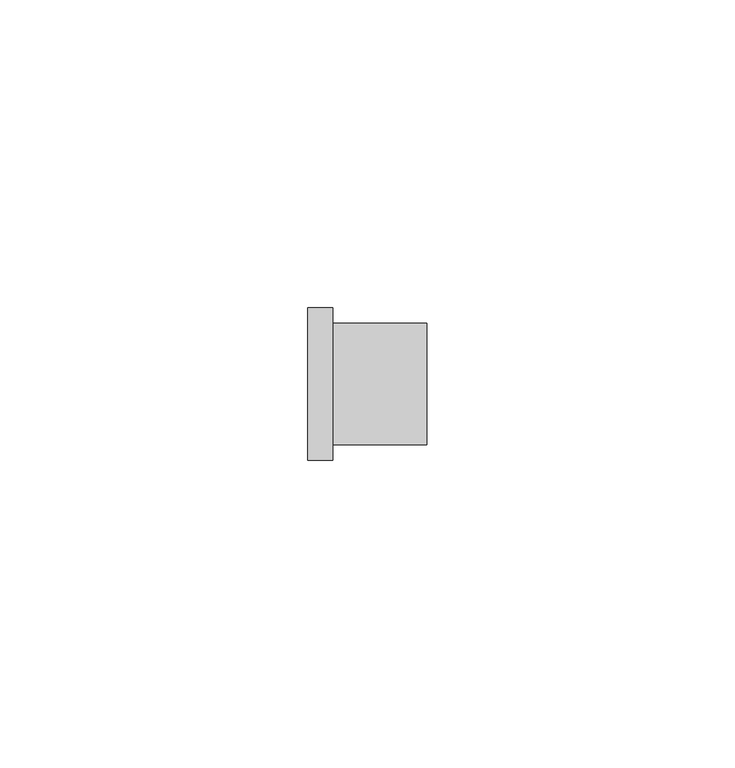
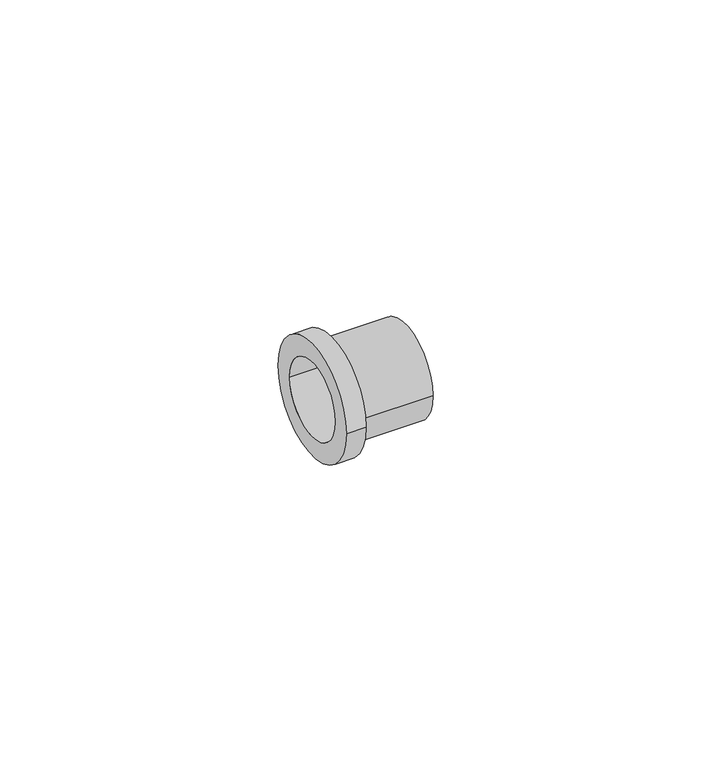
"""IFC4 building model written with IfcOpenShell, lengths in millimetres: pipe fitting geometry, FASTLOC_Sleeve outside : FSL S O DN1."""

from ifc_helpers import new_model, si_unit, frame, origin, place, context, project, spatial, polyline, circle_curve, source, transform, mapped, element, save
from ifc_brep_helpers import plane_surface, cylinder_surface, revolved_surface, advanced_brep


def pipe_fitting_d1512616(model_context):
    return source(origin(), model_context, "Body", "AdvancedBrep", [
        advanced_brep(
        [(4.0, 12.35, 0.0), (4.0, -12.35, 0.0), (0.0, -12.35, 0.0), (0.0, 12.35, 0.0), (19.3, 9.85, 0.0), (19.3, -9.85, 0.0), (4.0, -9.85, 0.0), (4.0, 9.85, 0.0), (0.0, 8.15, 0.0), (0.0, -8.15, 0.0), (19.3, -8.15, 0.0), (19.3, 8.15, 0.0)],
        [
            (0, 1, circle_curve(frame((4.0, 0.0, 0.0), z_axis=(-1.0, 0.0, 0.0), x_axis=(0.0, -1.0, 0.0)), 12.35)),
            (1, 2),
            (2, 3, circle_curve(frame((0.0, 0.0, 0.0), z_axis=(1.0, 0.0, 0.0), x_axis=(0.0, -1.0, 0.0)), 12.35)),
            (3, 0),
            (4, 5, circle_curve(frame((19.3, 0.0, 0.0), z_axis=(-1.0, 0.0, 0.0), x_axis=(0.0, -1.0, 0.0)), 9.85)),
            (5, 6),
            (6, 7, circle_curve(frame((4.0, 0.0, 0.0), z_axis=(1.0, 0.0, 0.0), x_axis=(0.0, -1.0, 0.0)), 9.85)),
            (7, 4),
            (8, 9, circle_curve(frame((0.0, 0.0, 0.0), z_axis=(-1.0, 0.0, 0.0), x_axis=(0.0, -1.0, 0.0)), 8.15)),
            (9, 10),
            (10, 11, circle_curve(frame((19.3, 0.0, 0.0), z_axis=(1.0, 0.0, 0.0), x_axis=(0.0, -1.0, 0.0)), 8.15)),
            (11, 8),
            (1, 0, circle_curve(frame((4.0, 0.0, 0.0), z_axis=(-1.0, 0.0, 0.0), x_axis=(0.0, 1.0, 0.0)), 12.35)),
            (3, 2, circle_curve(frame((0.0, 0.0, 0.0), z_axis=(1.0, 0.0, 0.0), x_axis=(0.0, 1.0, 0.0)), 12.35)),
            (6, 7, circle_curve(frame((4.0, 0.0, 0.0), z_axis=(-1.0, 0.0, 0.0), x_axis=(0.0, 1.0, 0.0)), 9.85)),
            (5, 4, circle_curve(frame((19.3, 0.0, 0.0), z_axis=(-1.0, 0.0, 0.0), x_axis=(0.0, 1.0, 0.0)), 9.85)),
            (10, 11, circle_curve(frame((19.3, 0.0, 0.0), z_axis=(-1.0, 0.0, 0.0), x_axis=(0.0, 1.0, 0.0)), 8.15)),
            (9, 8, circle_curve(frame((0.0, 0.0, 0.0), z_axis=(-1.0, 0.0, 0.0), x_axis=(0.0, 1.0, 0.0)), 8.15)),
        ],
        [
            cylinder_surface(frame((0.0, 0.0, 0.0), z_axis=(1.0, 0.0, 0.0), x_axis=(0.0, -1.0, 0.0)), 12.35),
            cylinder_surface(frame((0.0, 0.0, 0.0), z_axis=(1.0, 0.0, 0.0), x_axis=(0.0, -1.0, 0.0)), 9.85),
            revolved_surface(polyline([(19.3, -8.15, 0.0), (0.0, -8.15, 0.0)]), (0.0, 0.0, 0.0), (1.0, 0.0, 0.0)),
            cylinder_surface(frame((0.0, 0.0, 0.0), z_axis=(1.0, 0.0, 0.0), x_axis=(0.0, 1.0, 0.0)), 12.35),
            plane_surface(frame((4.0, 0.0, 0.0), z_axis=(1.0, 0.0, 0.0), x_axis=(0.0, 1.0, 0.0))),
            cylinder_surface(frame((0.0, 0.0, 0.0), z_axis=(1.0, 0.0, 0.0), x_axis=(0.0, 1.0, 0.0)), 9.85),
            plane_surface(frame((19.3, 0.0, 0.0), z_axis=(1.0, 0.0, 0.0), x_axis=(0.0, 1.0, 0.0))),
            revolved_surface(polyline([(19.3, 8.15, 0.0), (0.0, 8.15, 0.0)]), (0.0, 0.0, 0.0), (1.0, 0.0, 0.0)),
            plane_surface(frame((0.0, 0.0, 0.0), z_axis=(-1.0, 0.0, 0.0), x_axis=(0.0, 1.0, 0.0))),
        ],
        [
            (0, [[1, 2, 3, 4]]),
            (1, [[5, 6, 7, 8]]),
            (2, [[9, 10, 11, 12]]),
            (3, [[13, -4, 14, -2]]),
            (4, [[-13, -1], [15, -7]]),
            (5, [[16, -8, -15, -6]]),
            (6, [[-16, -5], [17, -11]]),
            (7, [[18, -12, -17, -10]]),
            (8, [[-14, -3], [-18, -9]]),
        ],
    ),
    ])


if __name__ == "__main__":
    model = new_model("IFC4")
    model_context = context("Model", 3, world=origin())
    ifc_project = project(units=[si_unit("LENGTHUNIT", "METRE", prefix="MILLI")], contexts=[model_context])
    site = spatial("IfcSite", under=ifc_project)
    building = spatial("IfcBuilding", under=site)
    placement = place(None, origin())
    pipe_fitting_shape = pipe_fitting_d1512616(model_context)
    element("IfcPipeFitting", 1, ObjectType="FASTLOC_Sleeve outside : FSL S O DN1", at=placement, inside=building, context=model_context, shape_type="MappedRepresentation", body=[
        mapped(pipe_fitting_shape, transform((0.0, 0.0, 0.0), x_axis=(1.0, 0.0, 0.0), y_axis=(0.0, 1.0, 0.0), z_axis=(0.0, 0.0, 1.0))),
    ])
    save(model, "model.ifc")
